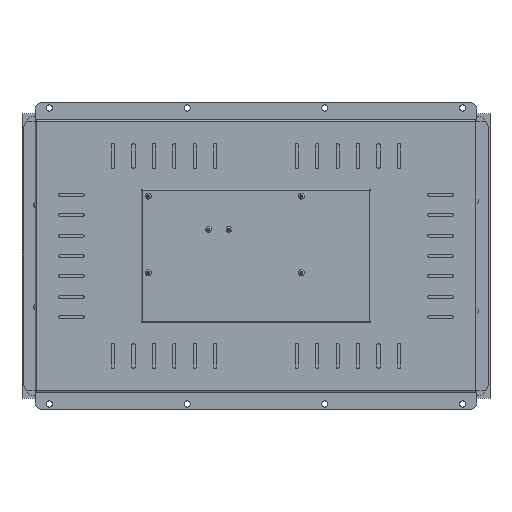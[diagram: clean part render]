
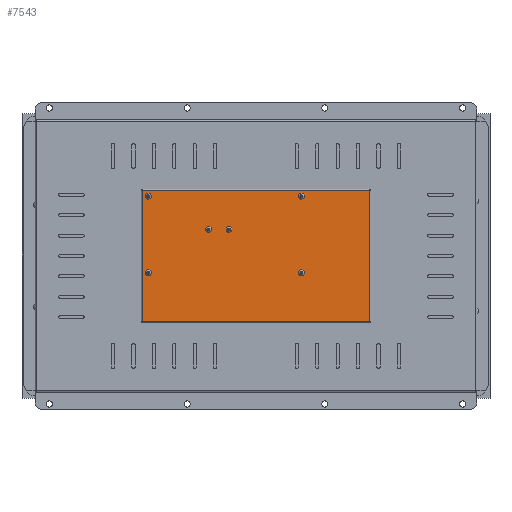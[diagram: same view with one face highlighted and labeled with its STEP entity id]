
A CAD part, top view. The second image highlights one B-rep face of the part: STEP entity #7543.
In plain terms, the highlighted planar face has unit normal (0, 0, 1) as drawn and (0, 0, -1) by its records, which use the part's own axes.
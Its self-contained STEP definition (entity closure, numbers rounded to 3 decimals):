
#155=FACE_BOUND('',#1261,.T.);
#156=FACE_BOUND('',#1262,.T.);
#157=FACE_BOUND('',#1263,.T.);
#158=FACE_BOUND('',#1264,.T.);
#159=FACE_BOUND('',#1265,.T.);
#160=FACE_BOUND('',#1266,.T.);
#279=CIRCLE('',#7978,1.9);
#281=CIRCLE('',#7981,1.9);
#283=CIRCLE('',#7984,2.);
#285=CIRCLE('',#7987,2.);
#287=CIRCLE('',#7990,2.);
#289=CIRCLE('',#7993,2.);
#823=FACE_OUTER_BOUND('',#1260,.T.);
#1260=EDGE_LOOP('',(#5410,#5411,#5412,#5413));
#1261=EDGE_LOOP('',(#5414));
#1262=EDGE_LOOP('',(#5415));
#1263=EDGE_LOOP('',(#5416));
#1264=EDGE_LOOP('',(#5417));
#1265=EDGE_LOOP('',(#5418));
#1266=EDGE_LOOP('',(#5419));
#1813=LINE('',#11188,#2579);
#1832=LINE('',#11236,#2598);
#1841=LINE('',#11264,#2607);
#1861=LINE('',#11309,#2627);
#2579=VECTOR('',#8895,10.);
#2598=VECTOR('',#8946,10.);
#2607=VECTOR('',#8973,10.);
#2627=VECTOR('',#9023,10.);
#3311=VERTEX_POINT('',#11146);
#3313=VERTEX_POINT('',#11152);
#3315=VERTEX_POINT('',#11158);
#3317=VERTEX_POINT('',#11164);
#3319=VERTEX_POINT('',#11170);
#3321=VERTEX_POINT('',#11176);
#3325=VERTEX_POINT('',#11185);
#3326=VERTEX_POINT('',#11187);
#3339=VERTEX_POINT('',#11235);
#3349=VERTEX_POINT('',#11263);
#4031=EDGE_CURVE('',#3311,#3311,#279,.T.);
#4034=EDGE_CURVE('',#3313,#3313,#281,.T.);
#4037=EDGE_CURVE('',#3315,#3315,#283,.T.);
#4040=EDGE_CURVE('',#3317,#3317,#285,.T.);
#4043=EDGE_CURVE('',#3319,#3319,#287,.T.);
#4046=EDGE_CURVE('',#3321,#3321,#289,.T.);
#4051=EDGE_CURVE('',#3326,#3325,#1813,.T.);
#4075=EDGE_CURVE('',#3339,#3326,#1832,.T.);
#4089=EDGE_CURVE('',#3349,#3339,#1841,.T.);
#4113=EDGE_CURVE('',#3325,#3349,#1861,.T.);
#5410=ORIENTED_EDGE('',*,*,#4051,.T.);
#5411=ORIENTED_EDGE('',*,*,#4113,.T.);
#5412=ORIENTED_EDGE('',*,*,#4089,.T.);
#5413=ORIENTED_EDGE('',*,*,#4075,.T.);
#5414=ORIENTED_EDGE('',*,*,#4031,.T.);
#5415=ORIENTED_EDGE('',*,*,#4034,.T.);
#5416=ORIENTED_EDGE('',*,*,#4037,.T.);
#5417=ORIENTED_EDGE('',*,*,#4040,.T.);
#5418=ORIENTED_EDGE('',*,*,#4043,.T.);
#5419=ORIENTED_EDGE('',*,*,#4046,.T.);
#7275=PLANE('',#8052);
#7543=ADVANCED_FACE('',(#823,#155,#156,#157,#158,#159,#160),#7275,.F.);
#7978=AXIS2_PLACEMENT_3D('',#11147,#8850,#8851);
#7981=AXIS2_PLACEMENT_3D('',#11153,#8857,#8858);
#7984=AXIS2_PLACEMENT_3D('',#11159,#8864,#8865);
#7987=AXIS2_PLACEMENT_3D('',#11165,#8871,#8872);
#7990=AXIS2_PLACEMENT_3D('',#11171,#8878,#8879);
#7993=AXIS2_PLACEMENT_3D('',#11177,#8885,#8886);
#8052=AXIS2_PLACEMENT_3D('',#11358,#9076,#9077);
#8850=DIRECTION('center_axis',(0.,0.,1.));
#8851=DIRECTION('ref_axis',(1.,0.,0.));
#8857=DIRECTION('center_axis',(0.,0.,1.));
#8858=DIRECTION('ref_axis',(1.,0.,0.));
#8864=DIRECTION('center_axis',(0.,0.,1.));
#8865=DIRECTION('ref_axis',(1.,0.,0.));
#8871=DIRECTION('center_axis',(0.,0.,1.));
#8872=DIRECTION('ref_axis',(1.,0.,0.));
#8878=DIRECTION('center_axis',(0.,0.,1.));
#8879=DIRECTION('ref_axis',(1.,0.,0.));
#8885=DIRECTION('center_axis',(0.,0.,1.));
#8886=DIRECTION('ref_axis',(1.,0.,0.));
#8895=DIRECTION('',(0.,-1.,0.));
#8946=DIRECTION('',(1.,0.,0.));
#8973=DIRECTION('',(0.,1.,0.));
#9023=DIRECTION('',(-1.,0.,0.));
#9076=DIRECTION('center_axis',(0.,0.,1.));
#9077=DIRECTION('ref_axis',(1.,0.,0.));
#11146=CARTESIAN_POINT('',(24.6,26.,0.));
#11147=CARTESIAN_POINT('Origin',(26.5,26.,0.));
#11152=CARTESIAN_POINT('',(44.6,26.,0.));
#11153=CARTESIAN_POINT('Origin',(46.5,26.,0.));
#11158=CARTESIAN_POINT('',(-46.5,-16.5,0.));
#11159=CARTESIAN_POINT('Origin',(-44.5,-16.5,0.));
#11164=CARTESIAN_POINT('',(-46.5,58.5,0.));
#11165=CARTESIAN_POINT('Origin',(-44.5,58.5,0.));
#11170=CARTESIAN_POINT('',(103.5,-16.5,0.));
#11171=CARTESIAN_POINT('Origin',(105.5,-16.5,0.));
#11176=CARTESIAN_POINT('',(103.5,58.5,0.));
#11177=CARTESIAN_POINT('Origin',(105.5,58.5,0.));
#11185=CARTESIAN_POINT('',(111.4,-64.4,0.));
#11187=CARTESIAN_POINT('',(111.4,64.4,0.));
#11188=CARTESIAN_POINT('',(111.4,-32.2,0.));
#11235=CARTESIAN_POINT('',(-111.4,64.4,0.));
#11236=CARTESIAN_POINT('',(56.25,64.4,0.));
#11263=CARTESIAN_POINT('',(-111.4,-64.4,0.));
#11264=CARTESIAN_POINT('',(-111.4,32.2,0.));
#11309=CARTESIAN_POINT('',(-56.25,-64.4,0.));
#11358=CARTESIAN_POINT('Origin',(0.,0.,
0.));
